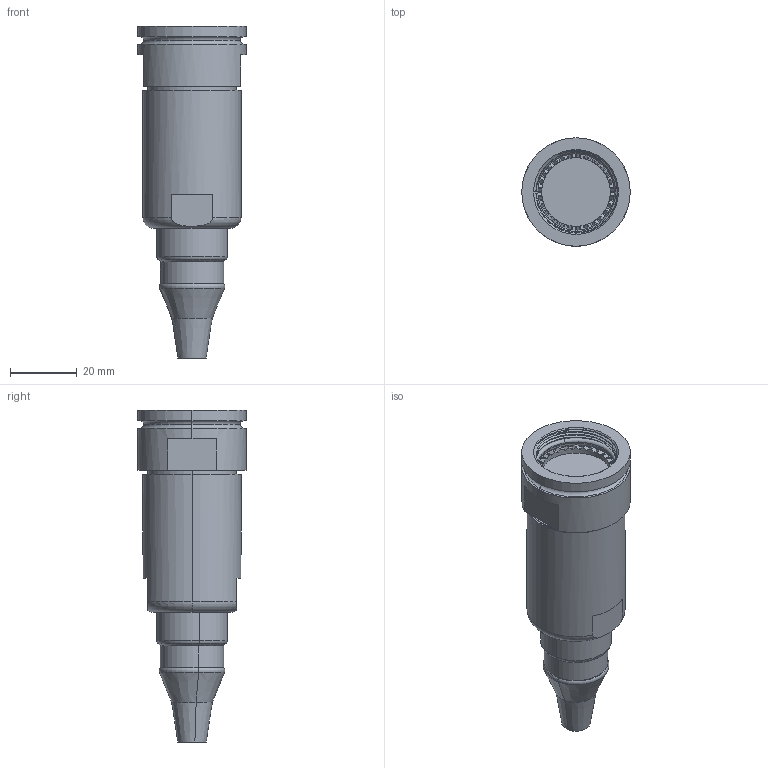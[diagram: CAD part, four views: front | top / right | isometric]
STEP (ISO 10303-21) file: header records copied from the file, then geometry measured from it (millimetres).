
FILE_DESCRIPTION (( 'STEP AP214' ), '1' );
FILE_NAME ('Q38SHELL-STX-17-XXXX-HX.STEP', '2025-09-09T18:22:45', ( '' ), ( '' ), 'SwSTEP 2.0', 'SolidWorks 2024', '' );
FILE_SCHEMA (( 'AUTOMOTIVE_DESIGN' ));
Length unit declared in the file: millimetre
Products named in the file (1): Q38SHELL-STX-17-XXXX-HX
Bounding box: 32.59 x 32.59 x 99.78 mm (x, y, z)
Volume: 46119.3 mm3; surface area: 12704.6 mm2
Topology: 2 solids, 2 shells, 216 faces, 564 edges, 366 vertices
Faces by surface type: plane 138, cylinder 39, cone 20, torus 16, bspline 3
Entity records: 7628 total; most frequent: CARTESIAN_POINT 2456, ORIENTED_EDGE 1128, DIRECTION 1100, EDGE_CURVE 564, AXIS2_PLACEMENT_3D 458, VERTEX_POINT 366, CIRCLE 244, EDGE_LOOP 232
